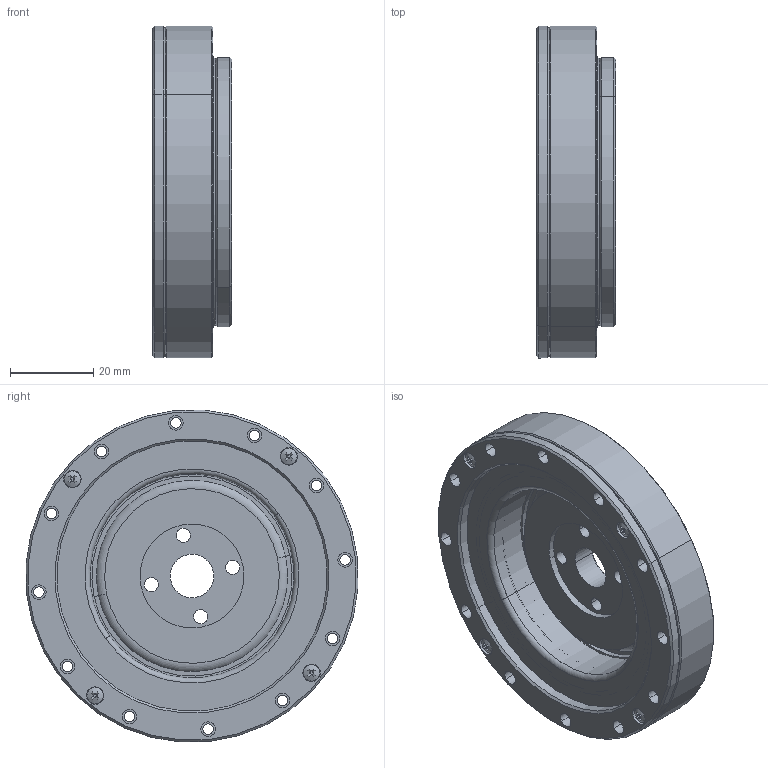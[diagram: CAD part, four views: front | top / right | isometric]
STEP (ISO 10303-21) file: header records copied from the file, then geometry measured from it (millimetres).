
FILE_DESCRIPTION (( 'STEP AP214' ), '1' );
FILE_NAME ('SHD-2017-XXX.STEP', '2023-06-10T08:26:12', ( 'PC' ), ( 'Microsoft' ), 'SwSTEP 2.0', 'SolidWorks 2016', '' );
FILE_SCHEMA (( 'AUTOMOTIVE_DESIGN' ));
Length unit declared in the file: millimetre
Products named in the file (15): SXD-20-柔性轴承_預設; SHD-2017_005; 2017蝠脫粣創; 内六角圆柱头螺钉 M2×8_M2×8; SHD-2017_004; ｹﾕ3｡ﾁ2.85; SHD-2017_002; SHD-2017_001; SHD-2017-XXX; 十字槽盘头螺钉 M2×4_預設; Oﾐﾎﾃﾜｷ篳ｦ-ｦｵ67｡ﾁｦｵ1.0; SHD-2017_003; SHD-2017_006; Oﾐﾎﾃﾜｷ篳ｦ-ｦｵ60｡ﾁｦｵ1.5; 2017疏楷汜ん
Assembly tree (84 placements, depth 3):
  SHD-2017-XXX
    2017蝠脫粣創
      SHD-2017_001
      SHD-2017_002
      ｹﾕ3｡ﾁ2.85  x68
      SHD-2017_004
      内六角圆柱头螺钉 M2×8_M2×8
    2017疏楷汜ん
      SHD-2017_005
      SXD-20-柔性轴承_預設
    Oﾐﾎﾃﾜｷ篳ｦ-ｦｵ60｡ﾁｦｵ1.5
    SHD-2017_006
    SHD-2017_003
    Oﾐﾎﾃﾜｷ篳ｦ-ｦｵ67｡ﾁｦｵ1.0
    十字槽盘头螺钉 M2×4_預設  x4
Bounding box: 19.06 x 79.81 x 79.81 mm (x, y, z)
Volume: 51865.9 mm3; surface area: 48615.4 mm2
Topology: 82 solids, 82 shells, 1135 faces, 2338 edges, 1379 vertices
Faces by surface type: cylinder 394, cone 392, plane 287, bspline 34, torus 28
Entity records: 18473 total; most frequent: CARTESIAN_POINT 4868, DIRECTION 2812, ORIENTED_EDGE 2216, AXIS2_PLACEMENT_3D 1192, EDGE_CURVE 1108, VERTEX_POINT 693, EDGE_LOOP 655, CIRCLE 631
